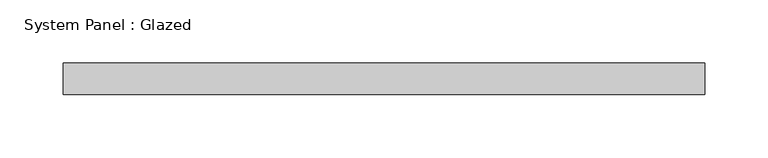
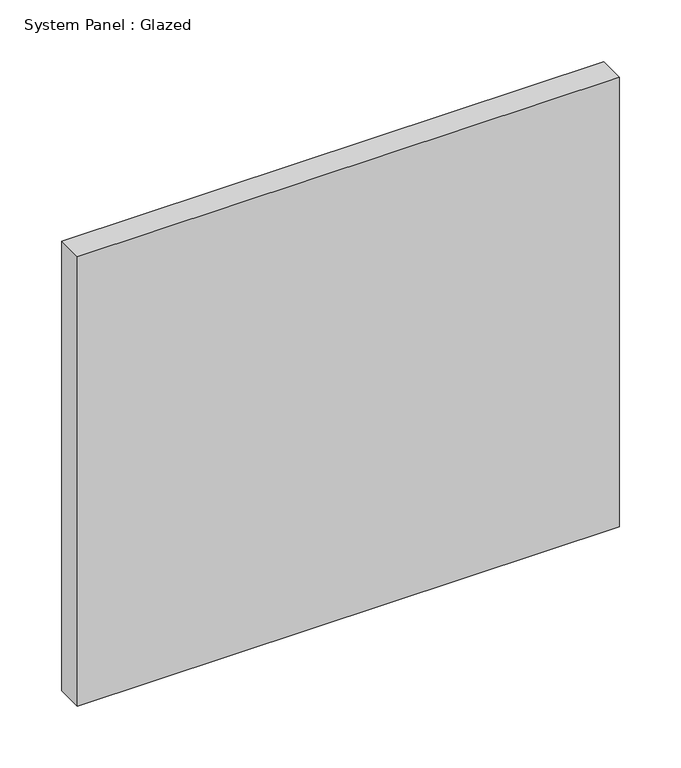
"""IFC4 building model written with IfcOpenShell, lengths in millimetres: plate geometry, System Panel : Glazed."""

from ifc_helpers import new_model, si_unit, origin, origin_with_axes, place, context, project, spatial, polyline, outline, extrude, source, transform, mapped, element, save


def system_panel_glazed_47b3d700(model_context):
    return source(origin(), model_context, "Body", "SweptSolid", [
        extrude(outline(polyline([(253.5950031, -12.5), (-253.5950031, -12.5), (-253.5950031, 12.5), (253.5950031, 12.5), (253.5950031, -12.5)])), origin_with_axes(), (0.0, 0.0, 1.0), 445.0),
    ])


if __name__ == "__main__":
    model = new_model("IFC4")
    model_context = context("Model", 3, world=origin())
    ifc_project = project(units=[si_unit("LENGTHUNIT", "METRE", prefix="MILLI")], contexts=[model_context])
    site = spatial("IfcSite", under=ifc_project)
    building = spatial("IfcBuilding", under=site)
    placement = place(None, origin())
    system_panel_glazed_shape = system_panel_glazed_47b3d700(model_context)
    element("IfcPlate", 1, ObjectType="System Panel : Glazed", at=placement, inside=building, context=model_context, shape_type="MappedRepresentation", body=[
        mapped(system_panel_glazed_shape, transform((0.0, 0.0, 0.0), x_axis=(1.0, 0.0, 0.0), y_axis=(0.0, 1.0, 0.0), z_axis=(0.0, 0.0, 1.0))),
    ])
    save(model, "model.ifc")
